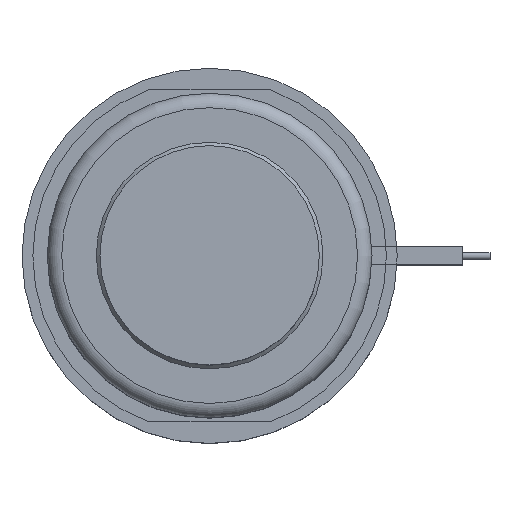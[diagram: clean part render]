
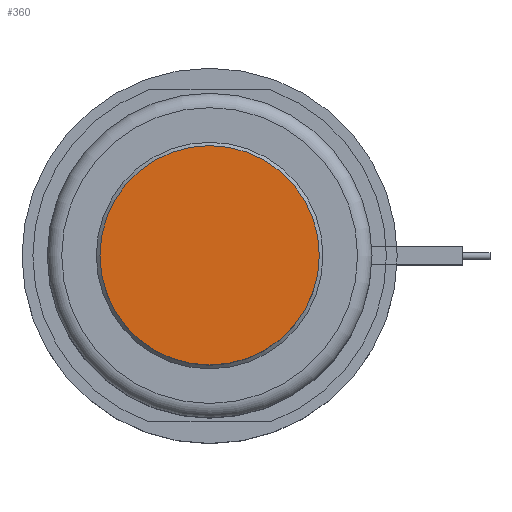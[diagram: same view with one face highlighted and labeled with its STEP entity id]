
A CAD part, top view. The second image highlights one B-rep face of the part: STEP entity #360.
In plain terms, the highlighted planar face has unit normal (0, 0, 1).
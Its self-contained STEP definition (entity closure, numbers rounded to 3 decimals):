
#360=ADVANCED_FACE('',(#489),#443,.F.);
#443=PLANE('',#1304);
#489=FACE_OUTER_BOUND('',#573,.T.);
#573=EDGE_LOOP('',(#715));
#715=ORIENTED_EDGE('',*,*,#1079,.F.);
#972=VERTEX_POINT('',#1867);
#1079=EDGE_CURVE('',#972,#972,#1213,.T.);
#1213=CIRCLE('',#1303,15.2);
#1303=AXIS2_PLACEMENT_3D('',#1866,#1500,#1501);
#1304=AXIS2_PLACEMENT_3D('',#1868,#1502,#1503);
#1500=DIRECTION('',(0.,0.,-1.));
#1501=DIRECTION('',(-1.,0.,0.));
#1502=DIRECTION('',(0.,0.,-1.));
#1503=DIRECTION('',(-1.,0.,0.));
#1866=CARTESIAN_POINT('',(0.,0.,18.));
#1867=CARTESIAN_POINT('',(-15.2,0.,18.));
#1868=CARTESIAN_POINT('',(0.,0.,18.));
